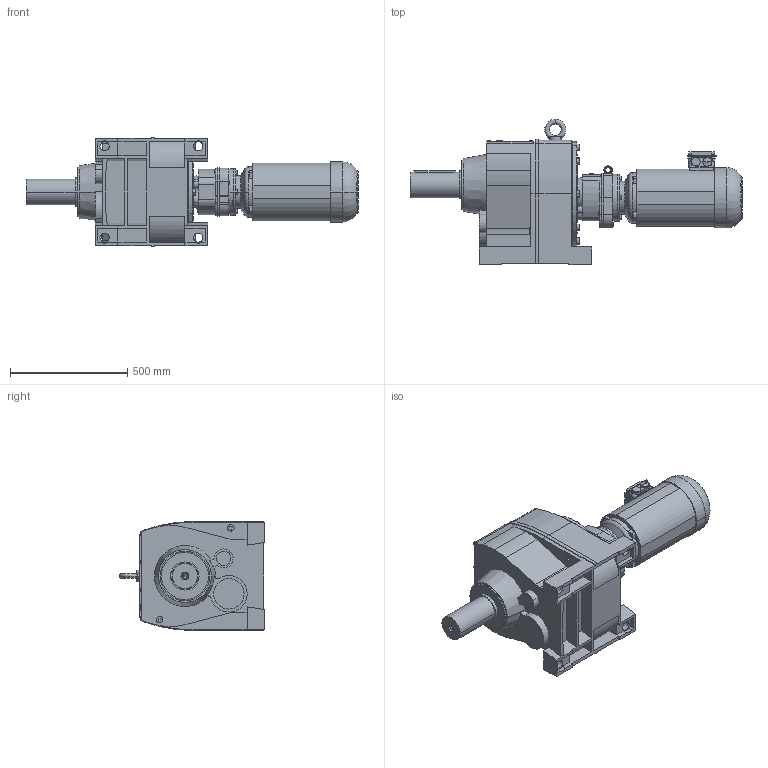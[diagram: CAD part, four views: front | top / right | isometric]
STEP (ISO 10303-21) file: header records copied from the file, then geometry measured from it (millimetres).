
FILE_DESCRIPTION(('STEP AP214'),'1');
FILE_NAME('STEP-File.stp','2018-01-01T00:00:00',(' '),('KEB'),' ','KEB-DRIVE',' ');
FILE_SCHEMA(('AUTOMOTIVE_DESIGN { 1 0 10303 214 1 1 1 1 }'));
Length unit declared in the file: millimetre
Products named in the file (11): g9a; w9_we_110x210; fp4-c9; g4b; ca4; dm132_kkn; kk10; PLUG_M32; SCREW-PLUG_M32; ndm132; G93G42A DM132MB4§CAD13
Assembly tree (10 placements, depth 2):
  G93G42A DM132MB4§CAD13
    g9a
    w9_we_110x210
    fp4-c9
    g4b
    ca4
    dm132_kkn
    kk10
    PLUG_M32
    SCREW-PLUG_M32
    ndm132
Bounding box: 1416.5 x 620 x 466 mm (x, y, z)
Volume: 119257986.4 mm3; surface area: 3024508.8 mm2
Topology: 10 solids, 10 shells, 578 faces, 1477 edges, 978 vertices
Faces by surface type: plane 345, cylinder 173, torus 25, cone 23, bspline 10, extrusion 2
Entity records: 26827 total; most frequent: CARTESIAN_POINT 13039, ORIENTED_EDGE 2950, DIRECTION 2549, EDGE_CURVE 1475, VERTEX_POINT 978, VECTOR 897, LINE 895, AXIS2_PLACEMENT_3D 826
